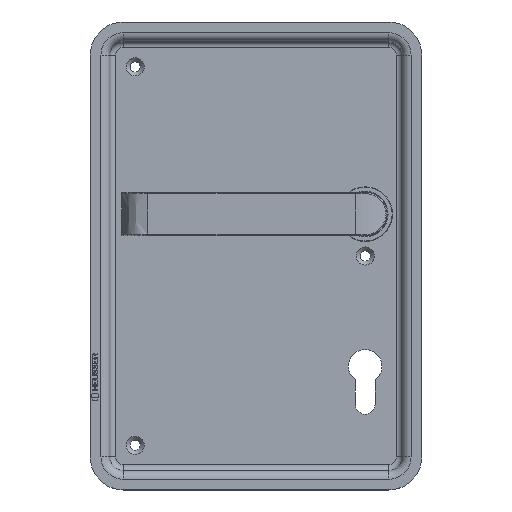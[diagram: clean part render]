
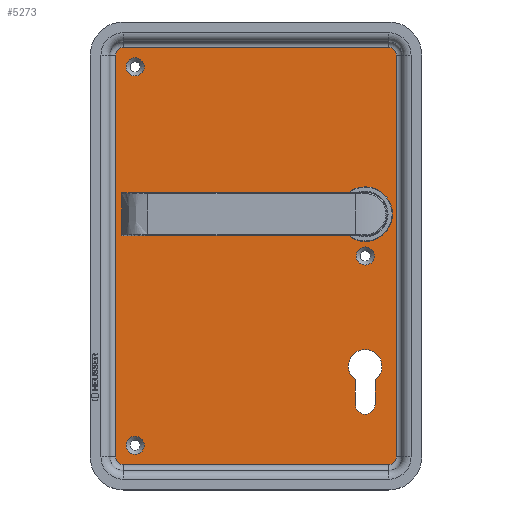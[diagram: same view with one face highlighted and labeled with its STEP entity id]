
A CAD part, top view. The second image highlights one B-rep face of the part: STEP entity #5273.
In plain terms, the highlighted planar face has unit normal (0, 0, 1).
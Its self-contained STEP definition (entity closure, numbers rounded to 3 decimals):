
#318=FACE_BOUND('',#1656,.T.);
#319=FACE_BOUND('',#1657,.T.);
#320=FACE_BOUND('',#1658,.T.);
#321=FACE_BOUND('',#1659,.T.);
#322=FACE_BOUND('',#1660,.T.);
#394=LINE('',#8310,#796);
#398=LINE('',#8320,#800);
#399=LINE('',#8351,#801);
#400=LINE('',#8355,#802);
#401=LINE('',#8359,#803);
#402=LINE('',#8363,#804);
#796=VECTOR('',#6258,10.);
#800=VECTOR('',#6270,10.);
#801=VECTOR('',#6307,10.);
#802=VECTOR('',#6310,10.);
#803=VECTOR('',#6313,10.);
#804=VECTOR('',#6316,10.);
#1304=FACE_OUTER_BOUND('',#1655,.T.);
#1655=EDGE_LOOP('',(#3576,#3577,#3578,#3579,#3580,#3581,#3582,#3583));
#1656=EDGE_LOOP('',(#3584));
#1657=EDGE_LOOP('',(#3585,#3586,#3587,#3588));
#1658=EDGE_LOOP('',(#3589));
#1659=EDGE_LOOP('',(#3590));
#1660=EDGE_LOOP('',(#3591));
#1975=CIRCLE('',#5633,14.);
#1978=CIRCLE('',#5639,8.6);
#1980=CIRCLE('',#5643,5.1);
#1990=CIRCLE('',#5661,4.65);
#1991=CIRCLE('',#5663,4.);
#1992=CIRCLE('',#5664,4.);
#1993=CIRCLE('',#5665,4.);
#1994=CIRCLE('',#5666,4.);
#1995=CIRCLE('',#5667,4.65);
#1996=CIRCLE('',#5668,4.65);
#2175=VERTEX_POINT('',#8291);
#2179=VERTEX_POINT('',#8301);
#2180=VERTEX_POINT('',#8303);
#2182=VERTEX_POINT('',#8309);
#2184=VERTEX_POINT('',#8315);
#2194=VERTEX_POINT('',#8346);
#2195=VERTEX_POINT('',#8349);
#2196=VERTEX_POINT('',#8350);
#2197=VERTEX_POINT('',#8352);
#2198=VERTEX_POINT('',#8354);
#2199=VERTEX_POINT('',#8356);
#2200=VERTEX_POINT('',#8358);
#2201=VERTEX_POINT('',#8360);
#2202=VERTEX_POINT('',#8362);
#2203=VERTEX_POINT('',#8365);
#2204=VERTEX_POINT('',#8367);
#2697=EDGE_CURVE('',#2175,#2175,#1975,.T.);
#2701=EDGE_CURVE('',#2180,#2179,#1978,.T.);
#2704=EDGE_CURVE('',#2182,#2180,#394,.T.);
#2707=EDGE_CURVE('',#2184,#2182,#1980,.T.);
#2710=EDGE_CURVE('',#2179,#2184,#398,.T.);
#2720=EDGE_CURVE('',#2194,#2194,#1990,.T.);
#2721=EDGE_CURVE('',#2195,#2196,#399,.T.);
#2722=EDGE_CURVE('',#2197,#2195,#1991,.T.);
#2723=EDGE_CURVE('',#2198,#2197,#400,.T.);
#2724=EDGE_CURVE('',#2199,#2198,#1992,.T.);
#2725=EDGE_CURVE('',#2200,#2199,#401,.T.);
#2726=EDGE_CURVE('',#2201,#2200,#1993,.T.);
#2727=EDGE_CURVE('',#2202,#2201,#402,.T.);
#2728=EDGE_CURVE('',#2196,#2202,#1994,.T.);
#2729=EDGE_CURVE('',#2203,#2203,#1995,.T.);
#2730=EDGE_CURVE('',#2204,#2204,#1996,.T.);
#3576=ORIENTED_EDGE('',*,*,#2721,.F.);
#3577=ORIENTED_EDGE('',*,*,#2722,.F.);
#3578=ORIENTED_EDGE('',*,*,#2723,.F.);
#3579=ORIENTED_EDGE('',*,*,#2724,.F.);
#3580=ORIENTED_EDGE('',*,*,#2725,.F.);
#3581=ORIENTED_EDGE('',*,*,#2726,.F.);
#3582=ORIENTED_EDGE('',*,*,#2727,.F.);
#3583=ORIENTED_EDGE('',*,*,#2728,.F.);
#3584=ORIENTED_EDGE('',*,*,#2697,.T.);
#3585=ORIENTED_EDGE('',*,*,#2707,.T.);
#3586=ORIENTED_EDGE('',*,*,#2704,.T.);
#3587=ORIENTED_EDGE('',*,*,#2701,.T.);
#3588=ORIENTED_EDGE('',*,*,#2710,.T.);
#3589=ORIENTED_EDGE('',*,*,#2729,.F.);
#3590=ORIENTED_EDGE('',*,*,#2730,.F.);
#3591=ORIENTED_EDGE('',*,*,#2720,.F.);
#4775=PLANE('',#5662);
#5273=ADVANCED_FACE('',(#1304,#318,#319,#320,#321,#322),#4775,.T.);
#5633=AXIS2_PLACEMENT_3D('',#8292,#6239,#6240);
#5639=AXIS2_PLACEMENT_3D('',#8304,#6252,#6253);
#5643=AXIS2_PLACEMENT_3D('',#8316,#6264,#6265);
#5661=AXIS2_PLACEMENT_3D('',#8347,#6303,#6304);
#5662=AXIS2_PLACEMENT_3D('',#8348,#6305,#6306);
#5663=AXIS2_PLACEMENT_3D('',#8353,#6308,#6309);
#5664=AXIS2_PLACEMENT_3D('',#8357,#6311,#6312);
#5665=AXIS2_PLACEMENT_3D('',#8361,#6314,#6315);
#5666=AXIS2_PLACEMENT_3D('',#8364,#6317,#6318);
#5667=AXIS2_PLACEMENT_3D('',#8366,#6319,#6320);
#5668=AXIS2_PLACEMENT_3D('',#8368,#6321,#6322);
#6239=DIRECTION('center_axis',(0.,0.,-1.));
#6240=DIRECTION('ref_axis',(1.,0.,0.));
#6252=DIRECTION('center_axis',(0.,0.,-1.));
#6253=DIRECTION('ref_axis',(0.593,-0.805,0.));
#6258=DIRECTION('',(0.,1.,0.));
#6264=DIRECTION('center_axis',(0.,0.,-1.));
#6265=DIRECTION('ref_axis',(-1.,0.,0.));
#6270=DIRECTION('',(0.,-1.,0.));
#6303=DIRECTION('center_axis',(0.,0.,1.));
#6304=DIRECTION('ref_axis',(-1.,0.,0.));
#6305=DIRECTION('center_axis',(0.,0.,1.));
#6306=DIRECTION('ref_axis',(1.,0.,0.));
#6307=DIRECTION('',(0.,1.,0.));
#6308=DIRECTION('center_axis',(0.,0.,-1.));
#6309=DIRECTION('ref_axis',(-0.707,-0.707,0.));
#6310=DIRECTION('',(-1.,0.,0.));
#6311=DIRECTION('center_axis',(0.,0.,-1.));
#6312=DIRECTION('ref_axis',(0.707,-0.707,0.));
#6313=DIRECTION('',(0.,-1.,0.));
#6314=DIRECTION('center_axis',(0.,0.,-1.));
#6315=DIRECTION('ref_axis',(0.707,0.707,0.));
#6316=DIRECTION('',(1.,0.,0.));
#6317=DIRECTION('center_axis',(0.,0.,-1.));
#6318=DIRECTION('ref_axis',(-0.707,0.707,0.));
#6319=DIRECTION('center_axis',(0.,0.,1.));
#6320=DIRECTION('ref_axis',(-1.,0.,0.));
#6321=DIRECTION('center_axis',(0.,0.,1.));
#6322=DIRECTION('ref_axis',(-1.,0.,0.));
#8291=CARTESIAN_POINT('',(15.204,26.549,-9.));
#8292=CARTESIAN_POINT('Origin',(29.204,26.549,-9.));
#8301=CARTESIAN_POINT('',(34.304,-58.376,-9.));
#8303=CARTESIAN_POINT('',(24.104,-58.376,-9.));
#8304=CARTESIAN_POINT('Origin',(29.204,-51.451,-9.));
#8309=CARTESIAN_POINT('',(24.104,-70.951,-9.));
#8310=CARTESIAN_POINT('',(24.104,-32.951,-9.));
#8315=CARTESIAN_POINT('',(34.304,-70.951,-9.));
#8316=CARTESIAN_POINT('Origin',(29.204,-70.951,-9.));
#8320=CARTESIAN_POINT('',(34.304,-26.664,-9.));
#8346=CARTESIAN_POINT('',(33.854,5.049,-9.));
#8347=CARTESIAN_POINT('Origin',(29.204,5.049,-9.));
#8348=CARTESIAN_POINT('Origin',(-26.796,5.049,-9.));
#8349=CARTESIAN_POINT('',(-98.796,-97.951,-9.));
#8350=CARTESIAN_POINT('',(-98.796,108.049,-9.));
#8351=CARTESIAN_POINT('',(-98.796,-46.451,-9.));
#8352=CARTESIAN_POINT('',(-94.796,-101.951,-9.));
#8353=CARTESIAN_POINT('Origin',(-94.796,-97.951,-9.));
#8354=CARTESIAN_POINT('',(41.204,-101.951,-9.));
#8355=CARTESIAN_POINT('',(7.204,-101.951,-9.));
#8356=CARTESIAN_POINT('',(45.204,-97.951,-9.));
#8357=CARTESIAN_POINT('Origin',(41.204,-97.951,-9.));
#8358=CARTESIAN_POINT('',(45.204,108.049,-9.));
#8359=CARTESIAN_POINT('',(45.204,56.549,-9.));
#8360=CARTESIAN_POINT('',(41.204,112.049,-9.));
#8361=CARTESIAN_POINT('Origin',(41.204,108.049,-9.));
#8362=CARTESIAN_POINT('',(-94.796,112.049,-9.));
#8363=CARTESIAN_POINT('',(-60.796,112.049,-9.));
#8364=CARTESIAN_POINT('Origin',(-94.796,108.049,-9.));
#8365=CARTESIAN_POINT('',(-84.146,102.049,-9.));
#8366=CARTESIAN_POINT('Origin',(-88.796,102.049,-9.));
#8367=CARTESIAN_POINT('',(-84.146,-91.951,-9.));
#8368=CARTESIAN_POINT('Origin',(-88.796,-91.951,-9.));
